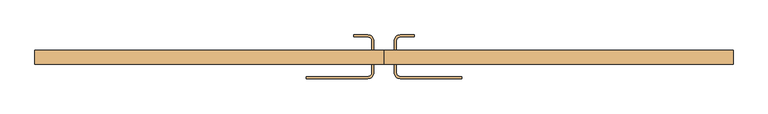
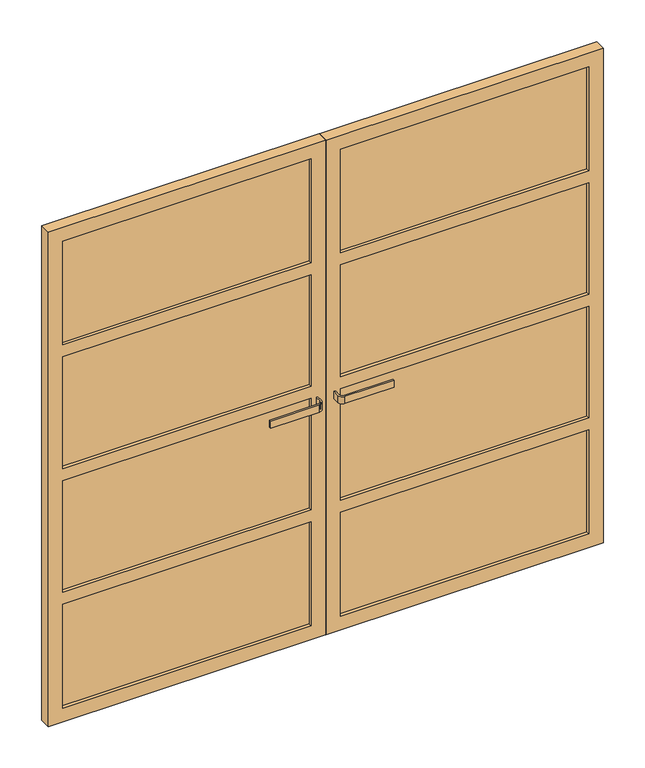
"""IFC4 building model written with IfcOpenShell, lengths in millimetres: door geometry, PUERTA_ACCESO : PUERTA_ACCESO."""

from ifc_helpers import new_model, si_unit, point, frame, frame_2d, origin, place, context, project, spatial, polyline, circle_curve, trimmed, segment, composite_curve, outline, extrude, source, transform, mapped, element, save


def door_257b7ec9(model_context):
    return source(origin(), model_context, "Body", "SweptSolid", [
        extrude(outline(polyline([(2055.0, 0.8168501), (0.0, 0.8168501), (0.0, 1091.247727), (2055.0, 1091.247727), (2055.0, 0.8168501)]), holes=[polyline([(1997.85, 57.9668501), (1997.85, 1034.097727), (1566.25, 1034.097727), (1566.25, 57.9668501), (1997.85, 57.9668501)]), polyline([(488.75, 1034.097727), (57.15, 1034.097727), (57.15, 57.9668501), (488.75, 57.9668501), (488.75, 1034.097727)]), polyline([(1516.25, 1034.097727), (1052.5, 1034.097727), (1052.5, 57.9668501), (1516.25, 57.9668501), (1516.25, 1034.097727)]), polyline([(1002.5, 1034.097727), (538.75, 1034.097727), (538.75, 57.9668501), (1002.5, 57.9668501), (1002.5, 1034.097727)])]), frame((0.0, -60.0, 0.0), z_axis=(0.0, 1.0, 0.0), x_axis=(0.0, 0.0, 1.0)), (0.0, 0.0, 1.0), 44.45),
        extrude(outline(polyline([(2055.0, -0.7706499), (2055.0, -1091.247727), (0.0, -1091.247727), (0.0, -0.7706499), (2055.0, -0.7706499)]), holes=[polyline([(1997.85, -1034.097727), (1997.85, -57.9206499), (1566.25, -57.9206499), (1566.25, -1034.097727), (1997.85, -1034.097727)]), polyline([(488.75, -57.9206499), (57.15, -57.9206499), (57.15, -1034.097727), (488.75, -1034.097727), (488.75, -57.9206499)]), polyline([(1052.5, -1034.097727), (1516.25, -1034.097727), (1516.25, -57.9206499), (1052.5, -57.9206499), (1052.5, -1034.097727)]), polyline([(538.75, -1034.097727), (1002.5, -1034.097727), (1002.5, -57.9206499), (538.75, -57.9206499), (538.75, -1034.097727)])]), frame((0.0, -60.0, 0.0), z_axis=(0.0, 1.0, 0.0), x_axis=(0.0, 0.0, 1.0)), (0.0, 0.0, 1.0), 44.45),
        extrude(outline(polyline([(1034.097727, -28.25), (1034.097727, -47.3), (57.9668501, -47.3), (57.9668501, -28.25), (1034.097727, -28.25)])), frame((0.0, 0.0, 57.15), z_axis=(0.0, 0.0, 1.0), x_axis=(1.0, 0.0, 0.0)), (0.0, 0.0, 1.0), 1940.7),
        extrude(outline(polyline([(-57.9206499, -28.25), (-57.9206499, -47.3), (-1034.097727, -47.3), (-1034.097727, -28.25), (-57.9206499, -28.25)])), frame((0.0, 0.0, 57.15), z_axis=(0.0, 0.0, 1.0), x_axis=(1.0, 0.0, 0.0)), (0.0, 0.0, 1.0), 1940.7),
        extrude(outline(composite_curve([segment(polyline([(-31.7268999, 12.7), (-31.7268999, -15.55), (-38.0768999, -15.55), (-38.0768999, 12.7)]), True, "CONTINUOUS"), segment(trimmed(circle_curve(frame_2d((-50.7768999, 12.7)), 12.7), [point((-38.0768999, 12.7))], [point((-50.7768999, 25.4))], True, "CARTESIAN"), True, "CONTINUOUS"), segment(polyline([(-50.7768999, 25.4), (-95.2268999, 25.4), (-95.2268999, 31.75), (-50.7768999, 31.75)]), True, "CONTINUOUS"), segment(trimmed(circle_curve(frame_2d((-50.7768999, 12.7)), 19.05), [point((-50.7768999, 31.75))], [point((-31.7268999, 12.7))], False, "CARTESIAN"), True, "CONTINUOUS")], self_intersect=False)), frame((0.0, 0.0, 970.0), z_axis=(0.0, 0.0, 1.0), x_axis=(1.0, 0.0, 0.0)), (0.0, 0.0, 1.0), 30.0),
        extrude(outline(composite_curve([segment(trimmed(circle_curve(frame_2d((50.8231001, 12.7)), 19.05), [point((31.7731001, 12.7))], [point((50.8231001, 31.75))], False, "CARTESIAN"), True, "CONTINUOUS"), segment(polyline([(50.8231001, 31.75), (95.2731001, 31.75), (95.2731001, 25.4), (50.8231001, 25.4)]), True, "CONTINUOUS"), segment(trimmed(circle_curve(frame_2d((50.8231001, 12.7)), 12.7), [point((50.8231001, 25.4))], [point((38.1231001, 12.7))], True, "CARTESIAN"), True, "CONTINUOUS"), segment(polyline([(38.1231001, 12.7), (38.1231001, -15.55), (31.7731001, -15.55), (31.7731001, 12.7)]), True, "CONTINUOUS")], self_intersect=False)), frame((0.0, 0.0, 970.0), z_axis=(0.0, 0.0, 1.0), x_axis=(1.0, 0.0, 0.0)), (0.0, 0.0, 1.0), 30.0),
        extrude(outline(composite_curve([segment(trimmed(circle_curve(frame_2d((-50.7768999, -85.4)), 19.05), [point((-31.7268999, -85.4))], [point((-50.7768999, -104.45))], False, "CARTESIAN"), True, "CONTINUOUS"), segment(polyline([(-50.7768999, -104.45), (-242.8268999, -104.45), (-242.8268999, -98.1), (-50.7768999, -98.1)]), True, "CONTINUOUS"), segment(trimmed(circle_curve(frame_2d((-50.7768999, -85.4)), 12.7), [point((-50.7768999, -98.1))], [point((-38.0768999, -85.4))], True, "CARTESIAN"), True, "CONTINUOUS"), segment(polyline([(-38.0768999, -85.4), (-38.0768999, -60.0), (-31.7268999, -60.0), (-31.7268999, -85.4)]), True, "CONTINUOUS")], self_intersect=False)), frame((0.0, 0.0, 970.0), z_axis=(0.0, 0.0, 1.0), x_axis=(1.0, 0.0, 0.0)), (0.0, 0.0, 1.0), 30.0),
        extrude(outline(composite_curve([segment(polyline([(31.7731001, -85.4), (31.7731001, -60.0), (38.1231001, -60.0), (38.1231001, -85.4)]), True, "CONTINUOUS"), segment(trimmed(circle_curve(frame_2d((50.8231001, -85.4)), 12.7), [point((38.1231001, -85.4))], [point((50.8231001, -98.1))], True, "CARTESIAN"), True, "CONTINUOUS"), segment(polyline([(50.8231001, -98.1), (243.3915874, -98.1), (243.3915874, -104.45), (50.8231001, -104.45)]), True, "CONTINUOUS"), segment(trimmed(circle_curve(frame_2d((50.8231001, -85.4)), 19.05), [point((50.8231001, -104.45))], [point((31.7731001, -85.4))], False, "CARTESIAN"), True, "CONTINUOUS")], self_intersect=False)), frame((0.0, 0.0, 970.0), z_axis=(0.0, 0.0, 1.0), x_axis=(1.0, 0.0, 0.0)), (0.0, 0.0, 1.0), 30.0),
    ])


if __name__ == "__main__":
    model = new_model("IFC4")
    model_context = context("Model", 3, world=origin())
    ifc_project = project(units=[si_unit("LENGTHUNIT", "METRE", prefix="MILLI")], contexts=[model_context])
    site = spatial("IfcSite", under=ifc_project)
    building = spatial("IfcBuilding", under=site)
    placement = place(None, origin())
    door_shape = door_257b7ec9(model_context)
    element("IfcDoor", 1, ObjectType="PUERTA_ACCESO : PUERTA_ACCESO", at=placement, inside=building, context=model_context, shape_type="MappedRepresentation", body=[
        mapped(door_shape, transform((0.0, 0.0, 0.0), x_axis=(1.0, 0.0, 0.0), y_axis=(0.0, 1.0, 0.0), z_axis=(0.0, 0.0, 1.0))),
    ])
    save(model, "model.ifc")
